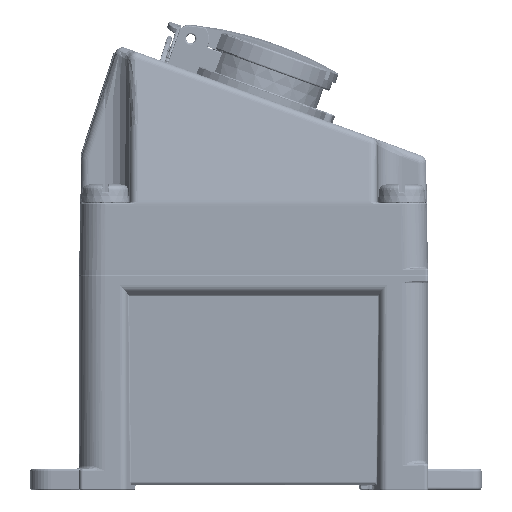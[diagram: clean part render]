
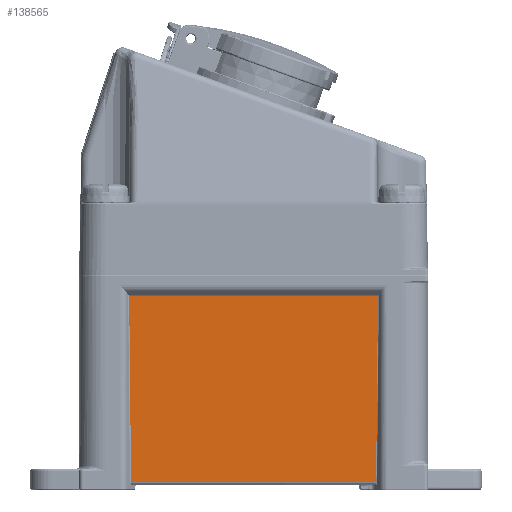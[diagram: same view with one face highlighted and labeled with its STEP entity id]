
A CAD part, left-side view. The second image highlights one B-rep face of the part: STEP entity #138565.
In plain terms, the highlighted planar face has unit normal (-1, 0, -0.018).
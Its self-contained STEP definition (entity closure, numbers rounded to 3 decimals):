
#3669=CARTESIAN_POINT('',(3.779,20.212,2.983));
#3670=CARTESIAN_POINT('',(3.779,20.204,2.983));
#3671=CARTESIAN_POINT('',(3.779,20.189,2.982));
#3672=CARTESIAN_POINT('',(3.779,20.167,2.982));
#3673=CARTESIAN_POINT('',(3.779,20.153,2.982));
#3674=CARTESIAN_POINT('',(3.779,20.145,2.981));
#3697=DIRECTION('',(0.,-1.,0.));
#3698=VECTOR('',#3697,90.443);
#3699=CARTESIAN_POINT('',(3.779,110.655,2.983));
#3700=LINE('36077',#3699,#3698);
#29812=CARTESIAN_POINT('',(3.779,20.145,2.981));
#29813=CARTESIAN_POINT('',(3.779,20.05,2.978));
#29814=CARTESIAN_POINT('',(3.779,19.863,2.959));
#29815=CARTESIAN_POINT('',(3.78,19.592,2.89));
#29816=CARTESIAN_POINT('',(3.782,19.427,2.822));
#29817=CARTESIAN_POINT('',(3.782,19.347,2.782));
#29822=CARTESIAN_POINT('',(3.782,19.347,2.782));
#29833=DIRECTION('',(-0.017,0.01,1.));
#29834=VECTOR('',#29833,69.263);
#29835=CARTESIAN_POINT('',(3.779,110.655,2.983));
#29836=LINE('36088',#29835,#29834);
#29840=DIRECTION('',(0.017,0.01,-1.));
#29841=VECTOR('',#29840,69.464);
#29842=CARTESIAN_POINT('',(2.57,18.647,72.232));
#29843=LINE('39067',#29842,#29841);
#29847=DIRECTION('',(0.,1.,0.));
#29848=VECTOR('',#29847,92.705);
#29849=CARTESIAN_POINT('',(2.57,18.647,72.232));
#29850=LINE('39066',#29849,#29848);
#29854=CARTESIAN_POINT('',(2.57,111.353,72.232));
#90301=CARTESIAN_POINT('',(3.779,20.212,2.983));
#90302=VERTEX_POINT('',#90301);
#90303=VERTEX_POINT('',#3674);
#90305=CARTESIAN_POINT('',(3.779,110.655,2.983));
#90306=VERTEX_POINT('',#90305);
#90320=VERTEX_POINT('',#29854);
#93340=VERTEX_POINT('',#29822);
#93341=CARTESIAN_POINT('',(2.57,18.647,72.232));
#93342=VERTEX_POINT('',#93341);
#138550=CARTESIAN_POINT('',(2.566,113.125,72.434));
#138551=DIRECTION('',(1.,0.,0.017));
#138552=DIRECTION('',(0.017,0.,-1.));
#138553=AXIS2_PLACEMENT_3D('',#138550,#138551,#138552);
#138554=PLANE('47256',#138553);
#138555=ORIENTED_EDGE('39065',*,*,#138544,.F.);
#138556=ORIENTED_EDGE('36073',*,*,#106128,.F.);
#138557=ORIENTED_EDGE('36077',*,*,#106145,.F.);
#138558=ORIENTED_EDGE('36088',*,*,#106187,.T.);
#138560=ORIENTED_EDGE('39066',*,*,#138559,.F.);
#138562=ORIENTED_EDGE('39067',*,*,#138561,.T.);
#138563=EDGE_LOOP('47256',(#138555,#138556,#138557,#138558,#138560,#138562));
#138564=FACE_OUTER_BOUND('47256',#138563,.F.);
#3675=B_SPLINE_CURVE_WITH_KNOTS('36073',3,(#3669,#3670,#3671,#3672,#3673,#3674),
.UNSPECIFIED.,.F.,.F.,(4,1,1,4),(0.,0.333,0.667,1.),
.UNSPECIFIED.);
#29818=B_SPLINE_CURVE_WITH_KNOTS('39065',3,(#29812,#29813,#29814,#29815,#29816,
#29817),.UNSPECIFIED.,.F.,.F.,(4,1,1,4),(0.,0.333,
0.667,1.),.UNSPECIFIED.);
#106128=EDGE_CURVE('36073',#90302,#90303,#3675,.T.);
#106145=EDGE_CURVE('36077',#90306,#90302,#3700,.T.);
#106187=EDGE_CURVE('36088',#90306,#90320,#29836,.T.);
#138544=EDGE_CURVE('39065',#90303,#93340,#29818,.T.);
#138559=EDGE_CURVE('39066',#93342,#90320,#29850,.T.);
#138561=EDGE_CURVE('39067',#93342,#93340,#29843,.T.);
#138565=ADVANCED_FACE('47256',(#138564),#138554,.F.);
